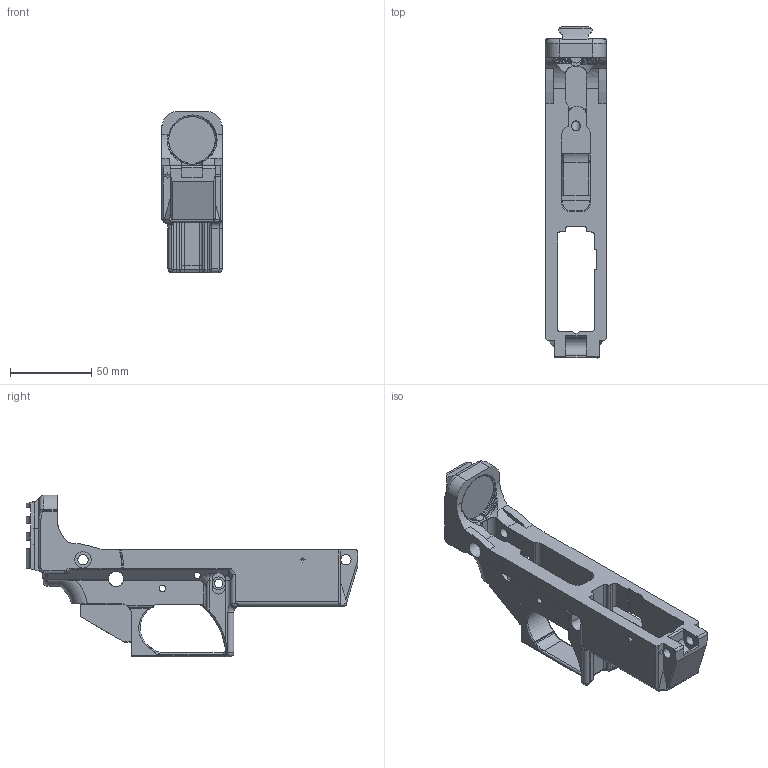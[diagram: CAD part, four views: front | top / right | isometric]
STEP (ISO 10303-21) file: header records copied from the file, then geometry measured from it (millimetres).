
FILE_DESCRIPTION(/* description */ (''),/* implementation_level */ '2;1');
FILE_NAME(/* name */ 'C:/Users/jeremy/OneDrive/Desktop/SG22 Lower Release.step',/* time_stamp */ '2021-03-18T08:52:37-06:00',/* author */ (''),/* organization */ (''),/* preprocessor_version */ 'ST-DEVELOPER v18.1',/* originating_system */ 'Autodesk Translation Framework v9.10.0.1330',/* authorisation */ '');
FILE_SCHEMA (('AUTOMOTIVE_DESIGN { 1 0 10303 214 3 1 1 }'));
Length unit declared in the file: millimetre
Products named in the file (1): Brace V2
Bounding box: 37.47 x 204.39 x 99.44 mm (x, y, z)
Volume: 147487.8 mm3; surface area: 50403.4 mm2
Topology: 1 solids, 1 shells, 600 faces, 1651 edges, 1035 vertices
Faces by surface type: plane 222, cylinder 184, bspline 136, torus 33, cone 22, sphere 3
Full cylindrical faces by diameter (mm): 3.81 x1, 3.969 x4, 5.182 x1, 5.334 x1, 6.35 x4, 7.938 x1, 9.55 x2, 10.16 x1
Entity records: 27589 total; most frequent: CARTESIAN_POINT 13140, ORIENTED_EDGE 3286, DIRECTION 2642, EDGE_CURVE 1643, VERTEX_POINT 1035, AXIS2_PLACEMENT_3D 920, LINE 802, VECTOR 802
